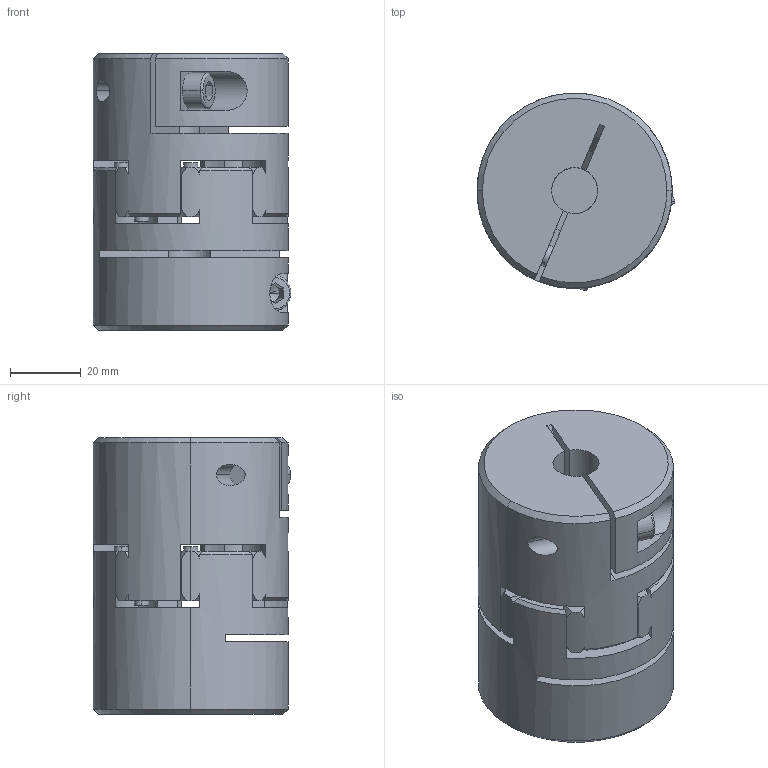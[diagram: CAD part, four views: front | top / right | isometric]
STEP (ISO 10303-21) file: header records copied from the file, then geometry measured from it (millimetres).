
FILE_DESCRIPTION((''),'2;1');
FILE_NAME('EKC-35','2026-03-30T11:04:43',('Administrator'),(''),'CREO PARAMETRIC BY PTC INC, 2020414','CREO PARAMETRIC BY PTC INC, 2020414','');
FILE_SCHEMA(('AUTOMOTIVE_DESIGN { 1 0 10303 214 1 1 1 1 }'));
Length unit declared in the file: millimetre
Products named in the file (1): EKC-35
Bounding box: 55.77 x 55.78 x 78 mm (x, y, z)
Volume: 153488 mm3; surface area: 40771.7 mm2
Topology: 1 solids, 1 shells, 252 faces, 738 edges, 491 vertices
Faces by surface type: cylinder 113, plane 76, cone 59, torus 4
Entity records: 9080 total; most frequent: CARTESIAN_POINT 2074, DIRECTION 1466, ORIENTED_EDGE 1464, EDGE_CURVE 732, AXIS2_PLACEMENT_3D 602, VERTEX_POINT 487, CIRCLE 349, EDGE_LOOP 277
